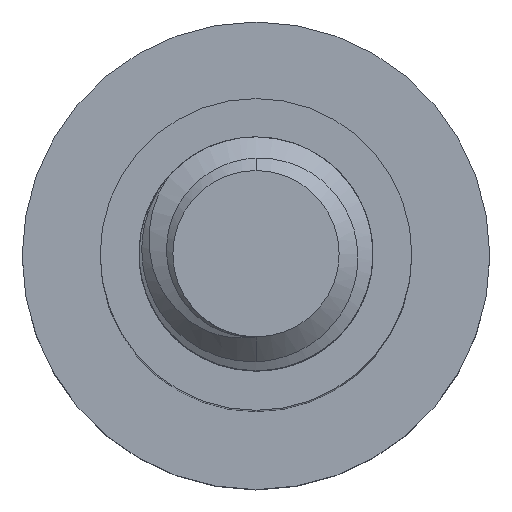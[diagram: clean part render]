
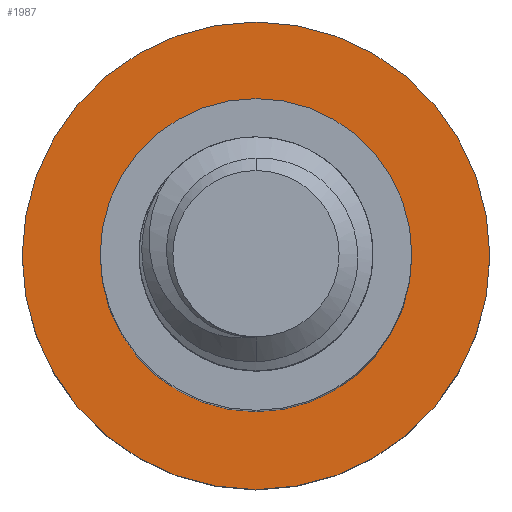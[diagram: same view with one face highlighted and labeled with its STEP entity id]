
A CAD part, top view. The second image highlights one B-rep face of the part: STEP entity #1987.
In plain terms, the highlighted planar face has unit normal (0, 0, 1).
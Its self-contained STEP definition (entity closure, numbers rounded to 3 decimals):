
#64 = CIRCLE ( 'NONE', #210, 6. ) ;
#145 = DIRECTION ( 'NONE',  ( 0., 0., -1. ) ) ;
#201 = CARTESIAN_POINT ( 'NONE',  ( 0., 0., -20. ) ) ;
#210 = AXIS2_PLACEMENT_3D ( 'NONE', #3940, #3579, #2977 ) ;
#239 = CARTESIAN_POINT ( 'NONE',  ( -4., 0., -20. ) ) ;
#284 = ORIENTED_EDGE ( 'NONE', *, *, #374, .F. ) ;
#374 = EDGE_CURVE ( 'NONE', #963, #1787, #3865, .T. ) ;
#511 = FACE_OUTER_BOUND ( 'NONE', #2449, .T. ) ;
#576 = DIRECTION ( 'NONE',  ( 0., 0., -1. ) ) ;
#580 = EDGE_CURVE ( 'NONE', #1724, #862, #830, .T. ) ;
#793 = ORIENTED_EDGE ( 'NONE', *, *, #580, .T. ) ;
#830 = CIRCLE ( 'NONE', #1177, 4. ) ;
#862 = VERTEX_POINT ( 'NONE', #239 ) ;
#963 = VERTEX_POINT ( 'NONE', #1007 ) ;
#1007 = CARTESIAN_POINT ( 'NONE',  ( -6., 0., -20. ) ) ;
#1177 = AXIS2_PLACEMENT_3D ( 'NONE', #3106, #145, #1473 ) ;
#1228 = ORIENTED_EDGE ( 'NONE', *, *, #1367, .F. ) ;
#1250 = AXIS2_PLACEMENT_3D ( 'NONE', #3891, #3873, #1299 ) ;
#1299 = DIRECTION ( 'NONE',  ( -1., 0., 0. ) ) ;
#1367 = EDGE_CURVE ( 'NONE', #1787, #963, #64, .T. ) ;
#1386 = AXIS2_PLACEMENT_3D ( 'NONE', #201, #1465, #1548 ) ;
#1465 = DIRECTION ( 'NONE',  ( 0., 0., -1. ) ) ;
#1473 = DIRECTION ( 'NONE',  ( -1., 0., 0. ) ) ;
#1548 = DIRECTION ( 'NONE',  ( -1., 0., 0. ) ) ;
#1724 = VERTEX_POINT ( 'NONE', #3536 ) ;
#1787 = VERTEX_POINT ( 'NONE', #2892 ) ;
#1987 = ADVANCED_FACE ( 'NONE', ( #3466, #511 ), #3140, .F. ) ;
#2071 = AXIS2_PLACEMENT_3D ( 'NONE', #2599, #576, #2272 ) ;
#2272 = DIRECTION ( 'NONE',  ( -1., 0., 0. ) ) ;
#2449 = EDGE_LOOP ( 'NONE', ( #1228, #284 ) ) ;
#2599 = CARTESIAN_POINT ( 'NONE',  ( 0., 0., -20. ) ) ;
#2737 = EDGE_CURVE ( 'NONE', #862, #1724, #4058, .T. ) ;
#2892 = CARTESIAN_POINT ( 'NONE',  ( 6., 0., -20. ) ) ;
#2972 = ORIENTED_EDGE ( 'NONE', *, *, #2737, .T. ) ;
#2977 = DIRECTION ( 'NONE',  ( -1., 0., 0. ) ) ;
#3106 = CARTESIAN_POINT ( 'NONE',  ( 0., 0., -20. ) ) ;
#3140 = PLANE ( 'NONE',  #1386 ) ;
#3188 = EDGE_LOOP ( 'NONE', ( #2972, #793 ) ) ;
#3466 = FACE_BOUND ( 'NONE', #3188, .T. ) ;
#3536 = CARTESIAN_POINT ( 'NONE',  ( 4., 0., -20. ) ) ;
#3579 = DIRECTION ( 'NONE',  ( 0., 0., -1. ) ) ;
#3865 = CIRCLE ( 'NONE', #1250, 6. ) ;
#3873 = DIRECTION ( 'NONE',  ( 0., 0., -1. ) ) ;
#3891 = CARTESIAN_POINT ( 'NONE',  ( 0., 0., -20. ) ) ;
#3940 = CARTESIAN_POINT ( 'NONE',  ( 0., 0., -20. ) ) ;
#4058 = CIRCLE ( 'NONE', #2071, 4. ) ;
